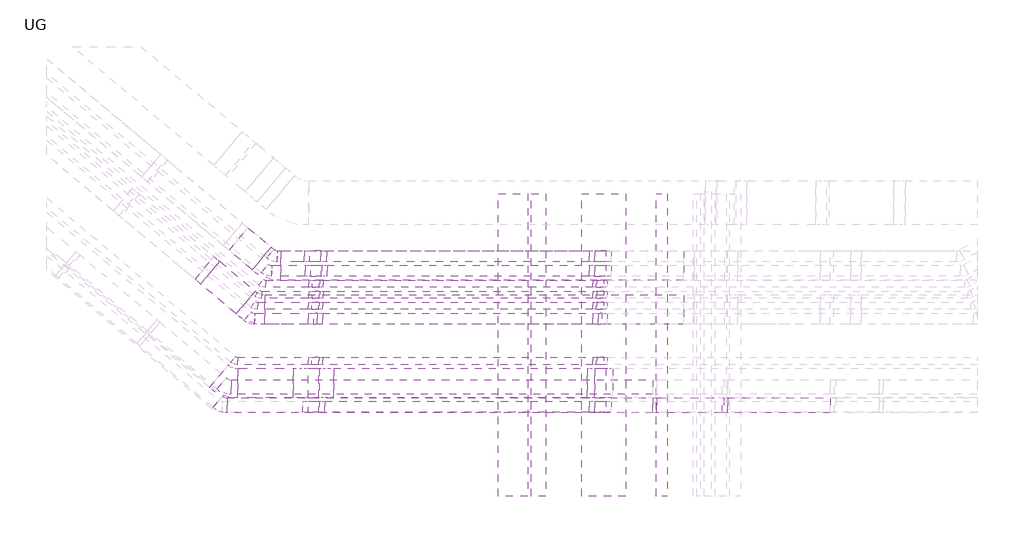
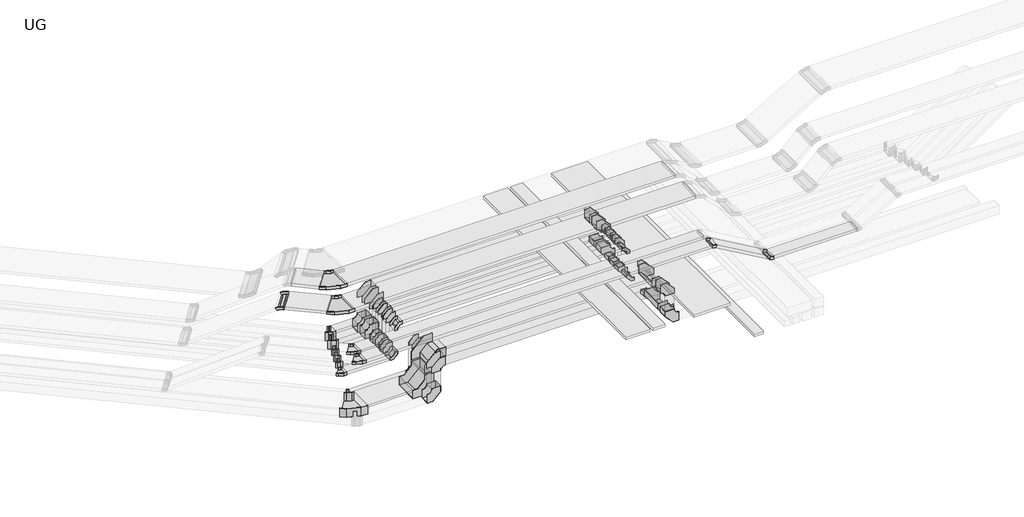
# One storey, part 7 of 14: 51 cable carrier fittings, 49 cable carrier segments.
"""IFC4 building model written with IfcOpenShell, lengths in millimetres."""

from ifc_helpers import new_model, si_unit, frame, origin, place, context, project, spatial, polyline, outline, extrude, transform, mapped, element, save
from components import cable_tray_horizontal_bend_6ea1dc5c, cable_tray_horizontal_bend_203efda3, cable_tray_horizontal_bend_376117d4, cable_tray_horizontal_bend_eb570cdd, cable_tray_horizontal_bend_2ef30f2e, cable_tray_horizontal_bend_5fd04952, cable_tray_vertical_inside_bend_de01723b, cable_tray_vertical_inside_bend_649f0518, cable_tray_vertical_inside_bend_28401fa2, cable_tray_vertical_inside_bend_dbbfe391, cable_tray_vertical_inside_bend_e31a4bf9, cable_tray_vertical_inside_bend_1c1c6de5, cable_tray_vertical_inside_bend_d6d3fe29, cable_tray_vertical_inside_bend_12245cc8, cable_tray_vertical_inside_bend_06119d48, cable_tray_vertical_inside_bend_abb6d1f4, cable_tray_vertical_inside_bend_db0dc6e9, cable_tray_vertical_inside_bend_ac1c3109, cable_tray_vertical_inside_bend_47f2189d, cable_tray_vertical_inside_bend_4fdccae9, cable_tray_vertical_inside_bend_7e400045, cable_tray_vertical_outside_bend_b526f006, cable_tray_vertical_outside_bend_dc64f624, cable_tray_vertical_outside_bend_665fa45d, cable_tray_vertical_outside_bend_2898f529, cable_tray_vertical_outside_bend_1a225cb0, cable_tray_vertical_outside_bend_da921238, cable_tray_vertical_outside_bend_ed6eee40, cable_tray_vertical_outside_bend_6acd1b9b, cable_tray_vertical_outside_bend_b24c8fc5, cable_tray_vertical_outside_bend_f7a50404, cable_tray_vertical_outside_bend_b7c47c18, cable_tray_vertical_outside_bend_d7308f68, cable_tray_vertical_outside_bend_21d388a0, cable_tray_vertical_outside_bend_bb4ee29d, cable_tray_vertical_outside_bend_37910013, cable_tray_vertical_outside_bend_9d80a6f1, cable_tray_vertical_outside_bend_c48c2dc3

model = new_model("IFC4")

# Units and contexts
model_context = context("Model", 3, world=origin())
ifc_project = project(units=[si_unit("LENGTHUNIT", "METRE", prefix="MILLI")], contexts=[model_context])

# Site, building, storey
site = spatial("IfcSite", under=ifc_project)
building = spatial("IfcBuilding", under=site)
storey = spatial("IfcBuildingStorey", under=building, Name="UG", Elevation=7925.0)

# Cable carrier fittings
placement = place(None, origin())
cable_tray_horizontal_bend_shape = cable_tray_horizontal_bend_6ea1dc5c(model_context)
element("IfcCableCarrierFitting", 1, ObjectType="Cable Tray Horizontal Bend : ELEC_ELV_TKG_N2402", at=placement, inside=storey, context=model_context, shape_type="MappedRepresentation", body=[
    mapped(cable_tray_horizontal_bend_shape, transform((132956.1137374, 23449.9736983, 12625.0), x_axis=(0.7660444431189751, -0.6427876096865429, 0.0), y_axis=(0.6427876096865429, 0.7660444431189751, 0.0), z_axis=(0.0, 0.0, 1.0))),
])
element("IfcCableCarrierFitting", 2, ObjectType="Cable Tray Horizontal Bend : ELEC_ELV_TKG_N2402", at=placement, inside=storey, context=model_context, shape_type="MappedRepresentation", body=[
    mapped(cable_tray_horizontal_bend_shape, transform((132901.5182023, 23299.9736983, 12625.0), x_axis=(0.7660444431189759, -0.642787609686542, 0.0), y_axis=(0.642787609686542, 0.7660444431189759, 0.0), z_axis=(0.0, 0.0, 1.0))),
])
element("IfcCableCarrierFitting", 3, ObjectType="Cable Tray Horizontal Bend : ELEC_ELV_TKG_N2402", at=placement, inside=storey, context=model_context, shape_type="MappedRepresentation", body=[
    mapped(cable_tray_horizontal_bend_shape, transform((132846.9226672, 23149.9736983, 12625.0), x_axis=(0.7660444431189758, -0.642787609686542, 0.0), y_axis=(0.642787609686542, 0.7660444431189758, 0.0), z_axis=(0.0, 0.0, 1.0))),
])
element("IfcCableCarrierFitting", 4, ObjectType="Cable Tray Horizontal Bend : ELEC_ELV_TKG_N2402", at=placement, inside=storey, context=model_context, shape_type="MappedRepresentation", body=[
    mapped(cable_tray_horizontal_bend_shape, transform((132573.6504557, 22399.7833112, 12624.996187), x_axis=(0.766044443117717, -0.6427876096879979, -2.3859743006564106e-07), y_axis=(0.642787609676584, 0.7660444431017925, 6.255244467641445e-06), z_axis=(-3.838017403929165e-06, -4.94516273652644e-06, 0.9999999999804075))),
])
cable_tray_horizontal_bend_2_shape = cable_tray_horizontal_bend_203efda3(model_context)
element("IfcCableCarrierFitting", 5, ObjectType="Cable Tray Horizontal Bend : ELEC_ELV_TKG_N2402", at=placement, inside=storey, context=model_context, shape_type="MappedRepresentation", body=[
    mapped(cable_tray_horizontal_bend_2_shape, transform((133092.6025753, 23824.9736983, 12650.0), x_axis=(0.7660444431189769, -0.6427876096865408, 0.0), y_axis=(0.6427876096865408, 0.7660444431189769, 0.0), z_axis=(0.0, 0.0, 1.0))),
])
element("IfcCableCarrierFitting", 6, ObjectType="Cable Tray Horizontal Bend : ELEC_ELV_TKG_N2402", at=placement, inside=storey, context=model_context, shape_type="MappedRepresentation", body=[
    mapped(cable_tray_horizontal_bend_2_shape, transform((133019.8085284, 23624.9736983, 12650.0), x_axis=(0.7660444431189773, -0.6427876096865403, 0.0), y_axis=(0.6427876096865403, 0.7660444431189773, 0.0), z_axis=(0.0, 0.0, 1.0))),
])
cable_tray_horizontal_bend_3_shape = cable_tray_horizontal_bend_376117d4(model_context)
element("IfcCableCarrierFitting", 7, ObjectType="Cable Tray Horizontal Bend : ELEC_ELV_TKG_N2402", at=placement, inside=storey, context=model_context, shape_type="MappedRepresentation", body=[
    mapped(cable_tray_horizontal_bend_3_shape, transform((132464.7539205, 22099.9736956, 12649.9999959), x_axis=(0.7660444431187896, -0.642787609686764, 0.0), y_axis=(0.642787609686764, 0.7660444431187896, 0.0), z_axis=(0.0, 0.0, 1.0))),
])
cable_tray_horizontal_bend_4_shape = cable_tray_horizontal_bend_eb570cdd(model_context)
element("IfcCableCarrierFitting", 8, ObjectType="Cable Tray Horizontal Bend : ELEC_ELV_CT_N2402", at=placement, inside=storey, context=model_context, shape_type="MappedRepresentation", body=[
    mapped(cable_tray_horizontal_bend_4_shape, transform((132783.6497954, 22974.619666, 12600.0), x_axis=(0.7660444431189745, -0.6427876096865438, 0.0), y_axis=(0.6427876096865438, 0.7660444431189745, 0.0), z_axis=(0.0, 0.0, 1.0))),
])
cable_tray_horizontal_bend_5_shape = cable_tray_horizontal_bend_2ef30f2e(model_context)
element("IfcCableCarrierFitting", 9, ObjectType="Cable Tray Horizontal Bend : ELEC_SUB_CT_N2402", at=placement, inside=storey, context=model_context, shape_type="MappedRepresentation", body=[
    mapped(cable_tray_horizontal_bend_5_shape, transform((133047.1062988, 23699.9737061, 13674.9999995), x_axis=(0.7660444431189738, -0.6427876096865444, 0.0), y_axis=(0.6427876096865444, 0.7660444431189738, 0.0), z_axis=(0.0, 0.0, 1.0))),
])
element("IfcCableCarrierFitting", 10, ObjectType="Cable Tray Horizontal Bend : ELEC_SUB_CT_N2402", at=placement, inside=storey, context=model_context, shape_type="MappedRepresentation", body=[
    mapped(cable_tray_horizontal_bend_5_shape, transform((132828.7241551, 23099.9736973, 13674.9999995), x_axis=(0.7660444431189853, -0.6427876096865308, 0.0), y_axis=(0.6427876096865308, 0.7660444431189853, 0.0), z_axis=(0.0, 0.0, 1.0))),
])
cable_tray_horizontal_bend_6_shape = cable_tray_horizontal_bend_5fd04952(model_context)
element("IfcCableCarrierFitting", 11, ObjectType="Cable Tray Horizontal Bend : ELEC_SUB_CT_N2402", at=placement, inside=storey, context=model_context, shape_type="MappedRepresentation", body=[
    mapped(cable_tray_horizontal_bend_6_shape, transform((132393.8039636, 21797.4337006, 13672.4599954), x_axis=(0.7660444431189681, -0.6427876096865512, 0.0), y_axis=(0.6427876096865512, 0.7660444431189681, 0.0), z_axis=(0.0, 0.0, 1.0))),
])
element("IfcCableCarrierFitting", 12, ObjectType="Cable Tray Horizontal Bend : ELEC_SUB_CT_N2402", at=placement, inside=storey, context=model_context, shape_type="MappedRepresentation", body=[
    mapped(cable_tray_horizontal_bend_6_shape, transform((132445.8317512, 22047.4337006, 13672.4599954), x_axis=(0.7660444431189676, -0.6427876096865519, 0.0), y_axis=(0.6427876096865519, 0.7660444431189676, 0.0), z_axis=(0.0, 0.0, 1.0))),
])
cable_tray_vertical_inside_bend_shape = cable_tray_vertical_inside_bend_de01723b(model_context)
element("IfcCableCarrierFitting", 13, ObjectType="Cable Tray Vertical Inside Bend : ELEC_SUB_CT_N2402", at=placement, inside=storey, context=model_context, shape_type="MappedRepresentation", body=[
    mapped(cable_tray_vertical_inside_bend_shape, transform((139235.0, 21797.4337006, 13125.0), x_axis=(-1.0, 0.0, 0.0), y_axis=(0.0, 0.0, 1.0), z_axis=(0.0, 1.0, 0.0))),
])
cable_tray_vertical_inside_bend_2_shape = cable_tray_vertical_inside_bend_649f0518(model_context)
element("IfcCableCarrierFitting", 14, ObjectType="Cable Tray Vertical Inside Bend : ELEC_ELV_TKG_N2402", at=placement, inside=storey, context=model_context, shape_type="MappedRepresentation", body=[
    mapped(cable_tray_vertical_inside_bend_2_shape, transform((133672.1243461, 23299.9736983, 12625.0), x_axis=(0.0, 0.0, -1.0), y_axis=(-1.0, 0.0, 0.0), z_axis=(0.0, 1.0, 0.0))),
])
element("IfcCableCarrierFitting", 15, ObjectType="Cable Tray Vertical Inside Bend : ELEC_ELV_TKG_N2402", at=placement, inside=storey, context=model_context, shape_type="MappedRepresentation", body=[
    mapped(cable_tray_vertical_inside_bend_2_shape, transform((133672.1243149, 23449.9736983, 12625.0), x_axis=(0.0, 0.0, -1.0), y_axis=(-1.0, 0.0, 0.0), z_axis=(0.0, 1.0, 0.0))),
])
element("IfcCableCarrierFitting", 16, ObjectType="Cable Tray Vertical Inside Bend : ELEC_ELV_TKG_N2402", at=placement, inside=storey, context=model_context, shape_type="MappedRepresentation", body=[
    mapped(cable_tray_vertical_inside_bend_2_shape, transform((133666.0591293, 23149.9736983, 12625.0), x_axis=(0.0, 0.0, -1.0), y_axis=(-1.0, 0.0, 0.0), z_axis=(0.0, 1.0, 0.0))),
])
cable_tray_vertical_inside_bend_3_shape = cable_tray_vertical_inside_bend_28401fa2(model_context)
element("IfcCableCarrierFitting", 17, ObjectType="Cable Tray Vertical Inside Bend : ELEC_ELV_TKG_N2402", at=placement, inside=storey, context=model_context, shape_type="MappedRepresentation", body=[
    mapped(cable_tray_vertical_inside_bend_3_shape, transform((133675.1581551, 23624.9736983, 12650.0), x_axis=(0.0, 0.0, -1.0), y_axis=(-1.0, 0.0, 0.0), z_axis=(0.0, 1.0, 0.0))),
])
element("IfcCableCarrierFitting", 18, ObjectType="Cable Tray Vertical Inside Bend : ELEC_ELV_TKG_N2402", at=placement, inside=storey, context=model_context, shape_type="MappedRepresentation", body=[
    mapped(cable_tray_vertical_inside_bend_3_shape, transform((133666.0591293, 23824.9736983, 12650.0), x_axis=(0.0, 0.0, -1.0), y_axis=(-1.0, 0.0, 0.0), z_axis=(0.0, 1.0, 0.0))),
])
cable_tray_vertical_inside_bend_4_shape = cable_tray_vertical_inside_bend_dbbfe391(model_context)
element("IfcCableCarrierFitting", 19, ObjectType="Cable Tray Vertical Inside Bend : ELEC_ELV_TKG_N2402", at=placement, inside=storey, context=model_context, shape_type="MappedRepresentation", body=[
    mapped(cable_tray_vertical_inside_bend_4_shape, transform((133641.0591293, 22099.9736956, 12649.9999959), x_axis=(0.0, 0.0, -1.0), y_axis=(-1.0, 0.0, 0.0), z_axis=(0.0, 1.0, 0.0))),
])
cable_tray_vertical_inside_bend_5_shape = cable_tray_vertical_inside_bend_e31a4bf9(model_context)
element("IfcCableCarrierFitting", 20, ObjectType="Cable Tray Vertical Inside Bend : ELEC_ELV_CT_N2402", at=placement, inside=storey, context=model_context, shape_type="MappedRepresentation", body=[
    mapped(cable_tray_vertical_inside_bend_5_shape, transform((133666.0591293, 22974.619666, 12600.0), x_axis=(0.0, 0.0, -1.0), y_axis=(-1.0, 0.0, 0.0), z_axis=(0.0, 1.0, 0.0))),
])
element("IfcCableCarrierFitting", 21, ObjectType="Cable Tray Vertical Inside Bend : ELEC_ELV_CT_N2402", at=placement, inside=storey, context=model_context, shape_type="MappedRepresentation", body=[
    mapped(cable_tray_vertical_inside_bend_5_shape, transform((137535.8122751, 22974.619666, 12599.9852732), x_axis=(0.0, 0.0, -1.0), y_axis=(1.0, 0.0, 0.0), z_axis=(0.0, -1.0, 0.0))),
])
cable_tray_vertical_inside_bend_6_shape = cable_tray_vertical_inside_bend_1c1c6de5(model_context)
element("IfcCableCarrierFitting", 22, ObjectType="Cable Tray Vertical Inside Bend : ELEC_ELV_TKG_N2402", at=placement, inside=storey, context=model_context, shape_type="MappedRepresentation", body=[
    mapped(cable_tray_vertical_inside_bend_6_shape, transform((133666.0591293, 22399.7833112, 12625.0003797), x_axis=(0.0, 0.0, -1.0), y_axis=(-1.0, 0.0, 0.0), z_axis=(0.0, 1.0, 0.0))),
])
cable_tray_vertical_inside_bend_7_shape = cable_tray_vertical_inside_bend_d6d3fe29(model_context)
element("IfcCableCarrierFitting", 23, ObjectType="Cable Tray Vertical Inside Bend : ELEC_ELV_TKG_N2402", at=placement, inside=storey, context=model_context, shape_type="MappedRepresentation", body=[
    mapped(cable_tray_vertical_inside_bend_7_shape, transform((133641.0591293, 21774.9736958, 12650.0050793), x_axis=(0.0, 0.0, -1.0), y_axis=(-1.0, 0.0, 0.0), z_axis=(0.0, 1.0, 0.0))),
])
cable_tray_vertical_inside_bend_8_shape = cable_tray_vertical_inside_bend_12245cc8(model_context)
element("IfcCableCarrierFitting", 24, ObjectType="Cable Tray Vertical Inside Bend : ELEC_ELV_TKG_N2402", at=placement, inside=storey, context=model_context, shape_type="MappedRepresentation", body=[
    mapped(cable_tray_vertical_inside_bend_8_shape, transform((137535.8122751, 22099.9736957, 12650.0), x_axis=(0.0, 0.0, -1.0), y_axis=(1.0, 0.0, 0.0), z_axis=(0.0, -1.0, 0.0))),
])
cable_tray_vertical_inside_bend_9_shape = cable_tray_vertical_inside_bend_06119d48(model_context)
element("IfcCableCarrierFitting", 25, ObjectType="Cable Tray Vertical Inside Bend : ELEC_ELV_TKG_N2402", at=placement, inside=storey, context=model_context, shape_type="MappedRepresentation", body=[
    mapped(cable_tray_vertical_inside_bend_9_shape, transform((137535.8122751, 21774.9736958, 12649.9657412), x_axis=(0.0, 0.0, -1.0), y_axis=(1.0, 0.0, 0.0), z_axis=(0.0, -1.0, 0.0))),
])
cable_tray_vertical_inside_bend_10_shape = cable_tray_vertical_inside_bend_abb6d1f4(model_context)
element("IfcCableCarrierFitting", 26, ObjectType="Cable Tray Vertical Inside Bend : ELEC_ELV_TKG_N2402", at=placement, inside=storey, context=model_context, shape_type="MappedRepresentation", body=[
    mapped(cable_tray_vertical_inside_bend_10_shape, transform((137535.8123493, 22399.7833112, 12625.428418), x_axis=(0.0, 0.0, -1.0), y_axis=(1.0, 0.0, 0.0), z_axis=(0.0, -1.0, 0.0))),
])
cable_tray_vertical_inside_bend_11_shape = cable_tray_vertical_inside_bend_db0dc6e9(model_context)
element("IfcCableCarrierFitting", 27, ObjectType="Cable Tray Vertical Inside Bend : ELEC_ELV_TKG_N2402", at=placement, inside=storey, context=model_context, shape_type="MappedRepresentation", body=[
    mapped(cable_tray_vertical_inside_bend_11_shape, transform((137535.8122751, 23149.9736983, 12624.9507728), x_axis=(0.0, 0.0, -1.0), y_axis=(1.0, 0.0, 0.0), z_axis=(0.0, -1.0, 0.0))),
])
cable_tray_vertical_inside_bend_12_shape = cable_tray_vertical_inside_bend_ac1c3109(model_context)
element("IfcCableCarrierFitting", 28, ObjectType="Cable Tray Vertical Inside Bend : ELEC_ELV_TKG_N2402", at=placement, inside=storey, context=model_context, shape_type="MappedRepresentation", body=[
    mapped(cable_tray_vertical_inside_bend_12_shape, transform((137535.8122751, 23299.9736983, 12624.948881), x_axis=(0.0, 0.0, -1.0), y_axis=(1.0, 0.0, 0.0), z_axis=(0.0, -1.0, 0.0))),
])
cable_tray_vertical_inside_bend_13_shape = cable_tray_vertical_inside_bend_47f2189d(model_context)
element("IfcCableCarrierFitting", 29, ObjectType="Cable Tray Vertical Inside Bend : ELEC_ELV_TKG_N2402", at=placement, inside=storey, context=model_context, shape_type="MappedRepresentation", body=[
    mapped(cable_tray_vertical_inside_bend_13_shape, transform((137535.8122751, 23449.9736983, 12624.9465865), x_axis=(0.0, 0.0, -1.0), y_axis=(1.0, 0.0, 0.0), z_axis=(0.0, -1.0, 0.0))),
])
cable_tray_vertical_inside_bend_14_shape = cable_tray_vertical_inside_bend_4fdccae9(model_context)
element("IfcCableCarrierFitting", 30, ObjectType="Cable Tray Vertical Inside Bend : ELEC_ELV_TKG_N2402", at=placement, inside=storey, context=model_context, shape_type="MappedRepresentation", body=[
    mapped(cable_tray_vertical_inside_bend_14_shape, transform((137535.8122751, 23624.9736983, 12649.9448143), x_axis=(0.0, 0.0, -1.0), y_axis=(1.0, 0.0, 0.0), z_axis=(0.0, -1.0, 0.0))),
])
cable_tray_vertical_inside_bend_15_shape = cable_tray_vertical_inside_bend_7e400045(model_context)
element("IfcCableCarrierFitting", 31, ObjectType="Cable Tray Vertical Inside Bend : ELEC_ELV_TKG_N2402", at=placement, inside=storey, context=model_context, shape_type="MappedRepresentation", body=[
    mapped(cable_tray_vertical_inside_bend_15_shape, transform((137535.8122751, 23824.9736983, 12649.9417846), x_axis=(0.0, 0.0, -1.0), y_axis=(1.0, 0.0, 0.0), z_axis=(0.0, -1.0, 0.0))),
])
cable_tray_vertical_outside_bend_shape = cable_tray_vertical_outside_bend_b526f006(model_context)
element("IfcCableCarrierFitting", 32, ObjectType="Cable Tray Vertical Outside Bend : ELEC_ELV_TKG_N2402", at=placement, inside=storey, context=model_context, shape_type="MappedRepresentation", body=[
    mapped(cable_tray_vertical_outside_bend_shape, transform((133675.1581551, 23624.9736983, 13225.0000128), x_axis=(-1.0, 0.0, 0.0), y_axis=(0.0, 0.0, -1.0), z_axis=(0.0, -1.0, 0.0))),
])
element("IfcCableCarrierFitting", 33, ObjectType="Cable Tray Vertical Outside Bend : ELEC_ELV_TKG_N2402", at=placement, inside=storey, context=model_context, shape_type="MappedRepresentation", body=[
    mapped(cable_tray_vertical_outside_bend_shape, transform((133666.0591293, 23824.9736983, 13225.0000128), x_axis=(-1.0, 0.0, 0.0), y_axis=(0.0, 0.0, -1.0), z_axis=(0.0, -1.0, 0.0))),
])
element("IfcCableCarrierFitting", 34, ObjectType="Cable Tray Vertical Outside Bend : ELEC_ELV_TKG_N2402", at=placement, inside=storey, context=model_context, shape_type="MappedRepresentation", body=[
    mapped(cable_tray_vertical_outside_bend_shape, transform((137535.8122751, 23624.9736983, 13225.0000128), x_axis=(1.0, 0.0, 0.0), y_axis=(0.0, 0.0, -1.0), z_axis=(0.0, 1.0, 0.0))),
])
element("IfcCableCarrierFitting", 35, ObjectType="Cable Tray Vertical Outside Bend : ELEC_ELV_TKG_N2402", at=placement, inside=storey, context=model_context, shape_type="MappedRepresentation", body=[
    mapped(cable_tray_vertical_outside_bend_shape, transform((137535.8122751, 23824.9736983, 13225.0000128), x_axis=(1.0, 0.0, 0.0), y_axis=(0.0, 0.0, -1.0), z_axis=(0.0, 1.0, 0.0))),
])
cable_tray_vertical_outside_bend_2_shape = cable_tray_vertical_outside_bend_dc64f624(model_context)
element("IfcCableCarrierFitting", 36, ObjectType="Cable Tray Vertical Outside Bend : ELEC_SUB_CT_N2402", at=placement, inside=storey, context=model_context, shape_type="MappedRepresentation", body=[
    mapped(cable_tray_vertical_outside_bend_2_shape, transform((132187.6283978, 23637.9169108, 13674.9999995), x_axis=(0.6634139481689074, -0.5566703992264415, 0.5000000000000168), y_axis=(0.38302222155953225, -0.3213938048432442, -0.8660254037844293), z_axis=(0.6427876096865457, 0.7660444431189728, 0.0))),
])
cable_tray_vertical_outside_bend_3_shape = cable_tray_vertical_outside_bend_665fa45d(model_context)
element("IfcCableCarrierFitting", 37, ObjectType="Cable Tray Vertical Outside Bend : ELEC_SUB_CT_N2402", at=placement, inside=storey, context=model_context, shape_type="MappedRepresentation", body=[
    mapped(cable_tray_vertical_outside_bend_3_shape, transform((138286.7714729, 21797.4337006, 13672.4599954), x_axis=(-0.8660254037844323, 0.0, 0.5000000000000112), y_axis=(-0.5000000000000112, 0.0, -0.8660254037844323), z_axis=(0.0, -1.0, 0.0))),
])
cable_tray_vertical_outside_bend_4_shape = cable_tray_vertical_outside_bend_2898f529(model_context)
element("IfcCableCarrierFitting", 38, ObjectType="Cable Tray Vertical Outside Bend : ELEC_ELV_TKG_N2402", at=placement, inside=storey, context=model_context, shape_type="MappedRepresentation", body=[
    mapped(cable_tray_vertical_outside_bend_4_shape, transform((133641.0591293, 21774.9736958, 13225.0316513), x_axis=(-0.9999999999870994, 0.0, 5.079486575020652e-06), y_axis=(-5.079486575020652e-06, 0.0, -0.9999999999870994), z_axis=(0.0, -1.0, 0.0))),
])
cable_tray_vertical_outside_bend_5_shape = cable_tray_vertical_outside_bend_1a225cb0(model_context)
element("IfcCableCarrierFitting", 39, ObjectType="Cable Tray Vertical Outside Bend : ELEC_ELV_TKG_N2402", at=placement, inside=storey, context=model_context, shape_type="MappedRepresentation", body=[
    mapped(cable_tray_vertical_outside_bend_5_shape, transform((133641.0591293, 22099.9736956, 13225.1330434), x_axis=(-0.9999999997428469, 0.0, 2.2678322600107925e-05), y_axis=(-2.2678322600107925e-05, 0.0, -0.9999999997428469), z_axis=(0.0, -1.0, 0.0))),
])
cable_tray_vertical_outside_bend_6_shape = cable_tray_vertical_outside_bend_da921238(model_context)
element("IfcCableCarrierFitting", 40, ObjectType="Cable Tray Vertical Outside Bend : ELEC_ELV_TKG_N2402", at=placement, inside=storey, context=model_context, shape_type="MappedRepresentation", body=[
    mapped(cable_tray_vertical_outside_bend_6_shape, transform((133666.0591293, 22399.7833112, 13200.0167314), x_axis=(-0.9999999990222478, 0.0, 4.422108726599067e-05), y_axis=(-4.422108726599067e-05, 0.0, -0.9999999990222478), z_axis=(0.0, -1.0, 0.0))),
])
cable_tray_vertical_outside_bend_7_shape = cable_tray_vertical_outside_bend_ed6eee40(model_context)
element("IfcCableCarrierFitting", 41, ObjectType="Cable Tray Vertical Outside Bend : ELEC_ELV_CT_N2402", at=placement, inside=storey, context=model_context, shape_type="MappedRepresentation", body=[
    mapped(cable_tray_vertical_outside_bend_7_shape, transform((133666.0591293, 22974.619666, 13175.0798258), x_axis=(-0.9999999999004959, 0.0, 1.41070315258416e-05), y_axis=(-1.41070315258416e-05, 0.0, -0.9999999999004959), z_axis=(0.0, -1.0, 0.0))),
])
cable_tray_vertical_outside_bend_8_shape = cable_tray_vertical_outside_bend_6acd1b9b(model_context)
element("IfcCableCarrierFitting", 42, ObjectType="Cable Tray Vertical Outside Bend : ELEC_ELV_TKG_N2402", at=placement, inside=storey, context=model_context, shape_type="MappedRepresentation", body=[
    mapped(cable_tray_vertical_outside_bend_8_shape, transform((133666.0591293, 23149.9736983, 13200.0800684), x_axis=(-0.9999999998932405, 0.0, 1.4612293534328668e-05), y_axis=(-1.4612293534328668e-05, 0.0, -0.9999999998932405), z_axis=(0.0, -1.0, 0.0))),
])
cable_tray_vertical_outside_bend_9_shape = cable_tray_vertical_outside_bend_b24c8fc5(model_context)
element("IfcCableCarrierFitting", 43, ObjectType="Cable Tray Vertical Outside Bend : ELEC_ELV_TKG_N2402", at=placement, inside=storey, context=model_context, shape_type="MappedRepresentation", body=[
    mapped(cable_tray_vertical_outside_bend_9_shape, transform((133672.1243461, 23299.9736983, 13200.0800507), x_axis=(-0.9999999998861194, 0.0, 1.5091761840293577e-05), y_axis=(-1.5091761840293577e-05, 0.0, -0.9999999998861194), z_axis=(0.0, -1.0, 0.0))),
])
cable_tray_vertical_outside_bend_10_shape = cable_tray_vertical_outside_bend_f7a50404(model_context)
element("IfcCableCarrierFitting", 44, ObjectType="Cable Tray Vertical Outside Bend : ELEC_ELV_TKG_N2402", at=placement, inside=storey, context=model_context, shape_type="MappedRepresentation", body=[
    mapped(cable_tray_vertical_outside_bend_10_shape, transform((133672.1243149, 23449.9736983, 13200.0800291), x_axis=(-0.9999999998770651, 0.0, 1.568023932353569e-05), y_axis=(-1.568023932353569e-05, 0.0, -0.9999999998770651), z_axis=(0.0, -1.0, 0.0))),
])
cable_tray_vertical_outside_bend_11_shape = cable_tray_vertical_outside_bend_b7c47c18(model_context)
element("IfcCableCarrierFitting", 45, ObjectType="Cable Tray Vertical Outside Bend : ELEC_ELV_TKG_N2402", at=placement, inside=storey, context=model_context, shape_type="MappedRepresentation", body=[
    mapped(cable_tray_vertical_outside_bend_11_shape, transform((137535.8122751, 21774.9736958, 13225.0146514), x_axis=(0.9999999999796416, 0.0, -6.3809810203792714e-06), y_axis=(-6.3809810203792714e-06, 0.0, -0.9999999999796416), z_axis=(0.0, 1.0, 0.0))),
])
cable_tray_vertical_outside_bend_12_shape = cable_tray_vertical_outside_bend_d7308f68(model_context)
element("IfcCableCarrierFitting", 46, ObjectType="Cable Tray Vertical Outside Bend : ELEC_ELV_TKG_N2402", at=placement, inside=storey, context=model_context, shape_type="MappedRepresentation", body=[
    mapped(cable_tray_vertical_outside_bend_12_shape, transform((137535.8122751, 22099.9736957, 13225.0595281), x_axis=(0.9999999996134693, 0.0, -2.7803983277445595e-05), y_axis=(-2.7803983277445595e-05, 0.0, -0.9999999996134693), z_axis=(0.0, 1.0, 0.0))),
])
cable_tray_vertical_outside_bend_13_shape = cable_tray_vertical_outside_bend_21d388a0(model_context)
element("IfcCableCarrierFitting", 47, ObjectType="Cable Tray Vertical Outside Bend : ELEC_ELV_TKG_N2402", at=placement, inside=storey, context=model_context, shape_type="MappedRepresentation", body=[
    mapped(cable_tray_vertical_outside_bend_13_shape, transform((137535.8122751, 22399.7833112, 13199.898672), x_axis=(0.9999999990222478, 0.0, -4.422108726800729e-05), y_axis=(-4.422108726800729e-05, 0.0, -0.9999999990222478), z_axis=(0.0, 1.0, 0.0))),
])
cable_tray_vertical_outside_bend_14_shape = cable_tray_vertical_outside_bend_bb4ee29d(model_context)
element("IfcCableCarrierFitting", 48, ObjectType="Cable Tray Vertical Outside Bend : ELEC_ELV_CT_N2402", at=placement, inside=storey, context=model_context, shape_type="MappedRepresentation", body=[
    mapped(cable_tray_vertical_outside_bend_14_shape, transform((137535.8122751, 22974.619666, 13175.0354087), x_axis=(0.9999999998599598, 0.0, -1.6735604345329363e-05), y_axis=(-1.6735604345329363e-05, 0.0, -0.9999999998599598), z_axis=(0.0, 1.0, 0.0))),
])
cable_tray_vertical_outside_bend_15_shape = cable_tray_vertical_outside_bend_37910013(model_context)
element("IfcCableCarrierFitting", 49, ObjectType="Cable Tray Vertical Outside Bend : ELEC_ELV_TKG_N2402", at=placement, inside=storey, context=model_context, shape_type="MappedRepresentation", body=[
    mapped(cable_tray_vertical_outside_bend_15_shape, transform((137535.8122751, 23149.9736983, 13200.0343921), x_axis=(0.9999999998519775, 0.0, -1.7205956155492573e-05), y_axis=(-1.7205956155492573e-05, 0.0, -0.9999999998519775), z_axis=(0.0, 1.0, 0.0))),
])
cable_tray_vertical_outside_bend_16_shape = cable_tray_vertical_outside_bend_9d80a6f1(model_context)
element("IfcCableCarrierFitting", 50, ObjectType="Cable Tray Vertical Outside Bend : ELEC_ELV_TKG_N2402", at=placement, inside=storey, context=model_context, shape_type="MappedRepresentation", body=[
    mapped(cable_tray_vertical_outside_bend_16_shape, transform((137535.8122751, 23299.9736983, 13200.033341), x_axis=(0.9999999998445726, 0.0, -1.7631080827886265e-05), y_axis=(-1.7631080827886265e-05, 0.0, -0.9999999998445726), z_axis=(0.0, 1.0, 0.0))),
])
cable_tray_vertical_outside_bend_17_shape = cable_tray_vertical_outside_bend_c48c2dc3(model_context)
element("IfcCableCarrierFitting", 51, ObjectType="Cable Tray Vertical Outside Bend : ELEC_ELV_TKG_N2402", at=placement, inside=storey, context=model_context, shape_type="MappedRepresentation", body=[
    mapped(cable_tray_vertical_outside_bend_17_shape, transform((137535.8122751, 23449.9736983, 13200.0319427), x_axis=(0.9999999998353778, 0.0, -1.8145092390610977e-05), y_axis=(-1.8145092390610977e-05, 0.0, -0.9999999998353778), z_axis=(0.0, 1.0, 0.0))),
])

# Cable carrier segments
element("IfcCableCarrierSegment", 52, ObjectType="ELEC_ELV_CT_N2402", at=placement, inside=storey, context=model_context, shape_type="SweptSolid", body=[
    extrude(outline(polyline([(138299.999995, 24675.0000095), (138449.999995, 24675.0000095), (138449.999995, 20563.0534549), (138299.999995, 20563.0534549), (138299.999995, 24675.0000095)])), frame((0.0, 0.0, 12748.000013), z_axis=(0.0, 0.0, 1.0), x_axis=(1.0, 0.0, 0.0)), (0.0, 0.0, 1.0), 50.0),
])
element("IfcCableCarrierSegment", 53, ObjectType="ELEC_SUB_CT_N2402", at=placement, inside=storey, context=model_context, shape_type="SweptSolid", body=[
    extrude(outline(polyline([(132518.6257981, 21947.4337006), (132518.6257981, 22147.4337006), (138253.2778238, 22147.4337006), (138253.2778238, 21947.4337006), (132518.6257981, 21947.4337006)])), frame((0.0, 0.0, 13647.4599954), z_axis=(0.0, 0.0, 1.0), x_axis=(1.0, 0.0, 0.0)), (0.0, 0.0, 1.0), 50.0),
])
element("IfcCableCarrierSegment", 54, ObjectType="ELEC_ELV_TKG_N2402", at=placement, inside=storey, context=model_context, shape_type="SweptSolid", body=[
    extrude(outline(polyline([(0.0, -100.0), (0.0, 0.0), (3669.7531471, 0.0), (3669.7531471, -100.0), (0.0, -100.0)])), frame((137435.8144862, 22349.7833112, 13149.903094), z_axis=(4.422108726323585e-05, 0.0, 0.9999999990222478), x_axis=(-0.9999999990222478, 0.0, 4.422108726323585e-05)), (0.0, 0.0, 1.0), 100.0),
])
element("IfcCableCarrierSegment", 55, ObjectType="ELEC_ELV_TKG_N2402", at=placement, inside=storey, context=model_context, shape_type="SweptSolid", body=[
    extrude(outline(polyline([(0.0, -150.0), (0.0, 0.0), (3594.753341, 0.0), (3594.753341, -150.0), (0.0, -150.0)])), frame((137385.8129134, 21699.9736958, 13150.0156086), z_axis=(4.250882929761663e-06, 0.0, 0.999999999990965), x_axis=(-0.999999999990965, 0.0, 4.250882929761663e-06)), (0.0, 0.0, 1.0), 149.9999999),
])
element("IfcCableCarrierSegment", 56, ObjectType="ELEC_ELV_CT_N2402", at=placement, inside=storey, context=model_context, shape_type="SweptSolid", body=[
    extrude(outline(polyline([(136549.9996932, 20563.0534549), (136149.9996932, 20563.0534549), (136149.9996932, 24675.0000095), (136549.9996932, 24675.0000095), (136549.9996932, 20563.0534549)])), frame((0.0, 0.0, 13448.000013), z_axis=(0.0, 0.0, 1.0), x_axis=(1.0, 0.0, 0.0)), (0.0, 0.0, 1.0), 50.0),
])
element("IfcCableCarrierSegment", 57, ObjectType="ELEC_ELV_CT_N2402", at=placement, inside=storey, context=model_context, shape_type="SweptSolid", body=[
    extrude(outline(polyline([(136549.9996932, 20563.0534549), (136149.9996932, 20563.0534549), (136149.9996932, 24675.0000095), (136549.9996932, 24675.0000095), (136549.9996932, 20563.0534549)])), frame((0.0, 0.0, 13448.000013), z_axis=(0.0, 0.0, 1.0), x_axis=(1.0, 0.0, 0.0)), (0.0, 0.0, 1.0), 50.0),
])
element("IfcCableCarrierSegment", 58, ObjectType="ELEC_ELV_CT_N2402", at=placement, inside=storey, context=model_context, shape_type="SweptSolid", body=[
    extrude(outline(polyline([(136799.9996932, 20563.0534549), (136599.9996932, 20563.0534549), (136599.9996932, 24675.0000095), (136799.9996932, 24675.0000095), (136799.9996932, 20563.0534549)])), frame((0.0, 0.0, 13448.000013), z_axis=(0.0, 0.0, 1.0), x_axis=(1.0, 0.0, 0.0)), (0.0, 0.0, 1.0), 50.0),
])
element("IfcCableCarrierSegment", 59, ObjectType="ELEC_ELV_CT_N2402", at=placement, inside=storey, context=model_context, shape_type="SweptSolid", body=[
    extrude(outline(polyline([(137884.6833266, 20563.0534549), (137284.6833266, 20563.0534549), (137284.6833266, 24675.0000095), (137884.6833266, 24675.0000095), (137884.6833266, 20563.0534549)])), frame((0.0, 0.0, 13448.000013), z_axis=(0.0, 0.0, 1.0), x_axis=(1.0, 0.0, 0.0)), (0.0, 0.0, 1.0), 50.0),
])
element("IfcCableCarrierSegment", 60, ObjectType="ELEC_ELV_CT_N2402", at=placement, inside=storey, context=model_context, shape_type="SweptSolid", body=[
    extrude(outline(polyline([(137884.6833256, 20563.0534549), (137284.6833256, 20563.0534549), (137284.6833256, 24675.0000095), (137884.6833256, 24675.0000095), (137884.6833256, 20563.0534549)])), frame((0.0, 0.0, 13448.000013), z_axis=(0.0, 0.0, 1.0), x_axis=(1.0, 0.0, 0.0)), (0.0, 0.0, 1.0), 50.0),
])
element("IfcCableCarrierSegment", 61, ObjectType="ELEC_ELV_TKG_N2402", at=placement, inside=storey, context=model_context, shape_type="SweptSolid", body=[
    extrude(outline(polyline([(0.0, -400.0), (0.0, 0.0), (3444.7517755, 0.0), (3444.7517755, -400.0), (0.0, -400.0)])), frame((133916.064007, 22299.9736956, 13150.1268067), z_axis=(1.8118298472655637e-05, 0.0, 0.9999999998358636), x_axis=(0.9999999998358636, 2.949634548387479e-11, -1.8118298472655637e-05)), (0.0, 0.0, 1.0), 150.0),
])
element("IfcCableCarrierSegment", 62, ObjectType="ELEC_ELV_CT_N2402", at=placement, inside=storey, context=model_context, shape_type="SweptSolid", body=[
    extrude(outline(polyline([(0.0, -150.0), (0.0, 0.0), (3669.7534089, 0.0), (3669.7534089, -150.0), (0.0, -150.0)])), frame((137435.8136671, 22899.619666, 13150.0370823), z_axis=(1.1263104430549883e-05, 0.0, 0.9999999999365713), x_axis=(-0.9999999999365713, -1.042218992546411e-12, 1.1263104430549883e-05)), (0.0, 0.0, 1.0), 50.0),
])
element("IfcCableCarrierSegment", 63, ObjectType="ELEC_ELV_TKG_N2402", at=placement, inside=storey, context=model_context, shape_type="SweptSolid", body=[
    extrude(outline(polyline([(0.0, -100.0), (0.0, 0.0), (3669.7534053, 0.0), (3669.7534053, -100.0), (0.0, -100.0)])), frame((137435.8134167, 23099.9736983, 13150.0361127), z_axis=(1.1579652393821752e-05, 0.0, 0.9999999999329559), x_axis=(-0.9999999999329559, 0.0, 1.1579652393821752e-05)), (0.0, 0.0, 1.0), 100.0),
])
element("IfcCableCarrierSegment", 64, ObjectType="ELEC_ELV_TKG_N2402", at=placement, inside=storey, context=model_context, shape_type="SweptSolid", body=[
    extrude(outline(polyline([(0.0, -100.0), (0.0, 0.0), (3663.6881832, 0.0), (3663.6881832, -100.0), (0.0, -100.0)])), frame((137435.8134454, 23249.9736983, 13150.035104), z_axis=(1.1856217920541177e-05, 0.0, 0.9999999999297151), x_axis=(-0.9999999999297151, 0.0, 1.1856217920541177e-05)), (0.0, 0.0, 1.0), 100.0),
])
element("IfcCableCarrierSegment", 65, ObjectType="ELEC_ELV_TKG_N2402", at=placement, inside=storey, context=model_context, shape_type="SweptSolid", body=[
    extrude(outline(polyline([(0.0, -100.0), (0.0, 0.0), (3663.6882069, 0.0), (3663.6882069, -100.0), (0.0, -100.0)])), frame((137435.8134795, 23399.9736983, 13150.0337572), z_axis=(1.2201870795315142e-05, 0.0, 0.9999999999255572), x_axis=(-0.9999999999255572, 0.0, 1.2201870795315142e-05)), (0.0, 0.0, 1.0), 100.0),
])
element("IfcCableCarrierSegment", 66, ObjectType="ELEC_SUB_CT_N2402", at=placement, inside=storey, context=model_context, shape_type="SweptSolid", body=[
    extrude(outline(polyline([(138253.2778238, 21897.4337006), (138253.2778238, 21697.4337006), (132466.5980104, 21697.4337006), (132466.5980104, 21897.4337006), (138253.2778238, 21897.4337006)])), frame((0.0, 0.0, 13647.4599954), z_axis=(0.0, 0.0, 1.0), x_axis=(1.0, 0.0, 0.0)), (0.0, 0.0, 1.0), 50.0),
])
element("IfcCableCarrierSegment", 67, ObjectType="ELEC_ELV_TKG_N2402", at=placement, inside=storey, context=model_context, shape_type="SweptSolid", body=[
    extrude(outline(polyline([(133825.1581551, 23549.9736983), (133825.1581551, 23699.9736983), (137385.8122751, 23699.9736983), (137385.8122751, 23549.9736983), (133825.1581551, 23549.9736983)])), frame((0.0, 0.0, 13150.0000128), z_axis=(0.0, 0.0, 1.0), x_axis=(1.0, 0.0, 0.0)), (0.0, 0.0, 1.0), 150.0),
])
element("IfcCableCarrierSegment", 68, ObjectType="ELEC_ELV_TKG_N2402", at=placement, inside=storey, context=model_context, shape_type="SweptSolid", body=[
    extrude(outline(polyline([(133816.0591293, 23749.9736983), (133816.0591293, 23899.9736983), (137385.8122751, 23899.9736983), (137385.8122751, 23749.9736983), (133816.0591293, 23749.9736983)])), frame((0.0, 0.0, 13150.0000128), z_axis=(0.0, 0.0, 1.0), x_axis=(1.0, 0.0, 0.0)), (0.0, 0.0, 1.0), 150.0),
])
element("IfcCableCarrierSegment", 69, ObjectType="ELEC_ELV_TKG_N2402", at=placement, inside=storey, context=model_context, shape_type="SweptSolid", body=[
    extrude(outline(polyline([(133716.0591293, 21849.9736958), (133716.0591293, 21699.9736958), (133566.0591293, 21699.9736958), (133566.0591293, 21849.9736958), (133716.0591293, 21849.9736958)])), frame((0.0, 0.0, 12799.999996), z_axis=(0.0, 0.0, 1.0), x_axis=(1.0, 0.0, 0.0)), (0.0, 0.0, 1.0), 275.0308934),
])
element("IfcCableCarrierSegment", 70, ObjectType="ELEC_ELV_TKG_N2402", at=placement, inside=storey, context=model_context, shape_type="SweptSolid", body=[
    extrude(outline(polyline([(133716.0591293, 22299.9736956), (133716.0591293, 21899.9736956), (133566.0591293, 21899.9736956), (133566.0591293, 22299.9736956), (133716.0591293, 22299.9736956)])), frame((0.0, 0.0, 12924.9999959), z_axis=(0.0, 0.0, 1.0), x_axis=(1.0, 0.0, 0.0)), (0.0, 0.0, 1.0), 25.1268109),
])
element("IfcCableCarrierSegment", 71, ObjectType="ELEC_ELV_TKG_N2402", at=placement, inside=storey, context=model_context, shape_type="SweptSolid", body=[
    extrude(outline(polyline([(132610.3420142, 21899.9736956), (132610.3420142, 22299.9736956), (133366.0591293, 22299.9736956), (133366.0591293, 21899.9736956), (132610.3420142, 21899.9736956)])), frame((0.0, 0.0, 12574.9999959), z_axis=(0.0, 0.0, 1.0), x_axis=(1.0, 0.0, 0.0)), (0.0, 0.0, 1.0), 150.0),
])
element("IfcCableCarrierSegment", 72, ObjectType="ELEC_ELV_TKG_N2402", at=placement, inside=storey, context=model_context, shape_type="SweptSolid", body=[
    extrude(outline(polyline([(133716.0591293, 22449.7833112), (133716.0591293, 22349.7833112), (133616.0591293, 22349.7833112), (133616.0591293, 22449.7833112), (133716.0591293, 22449.7833112)])), frame((0.0, 0.0, 12724.9999959), z_axis=(0.0, 0.0, 1.0), x_axis=(1.0, 0.0, 0.0)), (0.0, 0.0, 1.0), 375.0123133),
])
element("IfcCableCarrierSegment", 73, ObjectType="ELEC_ELV_TKG_N2402", at=placement, inside=storey, context=model_context, shape_type="SweptSolid", body=[
    extrude(outline(polyline([(0.0, -100.0), (0.0, 0.0), (956.0120339, 0.0), (956.0120339, -100.0), (0.0, -100.0)])), frame((132610.0476711, 22449.7833112, 12574.9963267), z_axis=(-3.838017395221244e-06, 0.0, 0.9999999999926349), x_axis=(0.9999999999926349, -3.823968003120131e-12, 3.838017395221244e-06)), (0.0, 0.0, 1.0), 100.0),
])
element("IfcCableCarrierSegment", 74, ObjectType="ELEC_ELV_CT_N2402", at=placement, inside=storey, context=model_context, shape_type="SweptSolid", body=[
    extrude(outline(polyline([(133691.0591293, 23049.619666), (133691.0591293, 22899.619666), (133641.0591293, 22899.619666), (133641.0591293, 23049.619666), (133691.0591293, 23049.619666)])), frame((0.0, 0.0, 12700.0), z_axis=(0.0, 0.0, 1.0), x_axis=(1.0, 0.0, 0.0)), (0.0, 0.0, 1.0), 375.0784151),
])
element("IfcCableCarrierSegment", 75, ObjectType="ELEC_ELV_CT_N2402", at=placement, inside=storey, context=model_context, shape_type="SweptSolid", body=[
    extrude(outline(polyline([(0.0, -150.0), (0.0, 0.0), (727.8137987, 0.0), (727.8137987, -150.0), (0.0, -150.0)])), frame((132838.2453306, 23049.619666, 12575.0), z_axis=(-2.3567312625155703e-12, 0.0, 1.0), x_axis=(1.0, 0.0, 2.3567312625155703e-12)), (0.0, 0.0, 1.0), 50.0),
])
element("IfcCableCarrierSegment", 76, ObjectType="ELEC_ELV_TKG_N2402", at=placement, inside=storey, context=model_context, shape_type="SweptSolid", body=[
    extrude(outline(polyline([(133716.0591293, 23199.9736983), (133716.0591293, 23099.9736983), (133616.0591293, 23099.9736983), (133616.0591293, 23199.9736983), (133716.0591293, 23199.9736983)])), frame((0.0, 0.0, 12725.0), z_axis=(0.0, 0.0, 1.0), x_axis=(1.0, 0.0, 0.0)), (0.0, 0.0, 1.0), 375.0786071),
])
element("IfcCableCarrierSegment", 77, ObjectType="ELEC_ELV_TKG_N2402", at=placement, inside=storey, context=model_context, shape_type="SweptSolid", body=[
    extrude(outline(polyline([(0.0, -100.0), (0.0, 0.0), (682.7394387, 0.0), (682.7394387, -100.0), (0.0, -100.0)])), frame((132883.3196906, 23199.9736983, 12575.0), z_axis=(-8.983455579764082e-12, 0.0, 1.0), x_axis=(1.0, -3.933433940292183e-12, 8.983455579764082e-12)), (0.0, 0.0, 1.0), 100.0),
])
element("IfcCableCarrierSegment", 78, ObjectType="ELEC_ELV_TKG_N2402", at=placement, inside=storey, context=model_context, shape_type="SweptSolid", body=[
    extrude(outline(polyline([(133722.1243461, 23349.9736983), (133722.1243461, 23249.9736983), (133622.1243461, 23249.9736983), (133622.1243461, 23349.9736983), (133722.1243461, 23349.9736983)])), frame((0.0, 0.0, 12725.0), z_axis=(0.0, 0.0, 1.0), x_axis=(1.0, 0.0, 0.0)), (0.0, 0.0, 1.0), 375.0785415),
])
element("IfcCableCarrierSegment", 79, ObjectType="ELEC_ELV_TKG_N2402", at=placement, inside=storey, context=model_context, shape_type="SweptSolid", body=[
    extrude(outline(polyline([(133572.1243461, 23349.9736983), (133572.1243461, 23249.9736983), (132937.9152257, 23249.9736983), (132937.9152257, 23349.9736983), (133572.1243461, 23349.9736983)])), frame((0.0, 0.0, 12575.0), z_axis=(0.0, 0.0, 1.0), x_axis=(1.0, 0.0, 0.0)), (0.0, 0.0, 1.0), 100.0),
])
element("IfcCableCarrierSegment", 80, ObjectType="ELEC_ELV_TKG_N2402", at=placement, inside=storey, context=model_context, shape_type="SweptSolid", body=[
    extrude(outline(polyline([(133722.1243149, 23499.9736983), (133722.1243149, 23399.9736983), (133622.1243149, 23399.9736983), (133622.1243149, 23499.9736983), (133722.1243149, 23499.9736983)])), frame((0.0, 0.0, 12725.0), z_axis=(0.0, 0.0, 1.0), x_axis=(1.0, 0.0, 0.0)), (0.0, 0.0, 1.0), 375.078461),
])
element("IfcCableCarrierSegment", 81, ObjectType="ELEC_ELV_TKG_N2402", at=placement, inside=storey, context=model_context, shape_type="SweptSolid", body=[
    extrude(outline(polyline([(133572.1243149, 23499.9736983), (133572.1243149, 23399.9736983), (132992.5107609, 23399.9736983), (132992.5107609, 23499.9736983), (133572.1243149, 23499.9736983)])), frame((0.0, 0.0, 12575.0), z_axis=(0.0, 0.0, 1.0), x_axis=(1.0, 0.0, 0.0)), (0.0, 0.0, 1.0), 100.0),
])
element("IfcCableCarrierSegment", 82, ObjectType="ELEC_ELV_TKG_N2402", at=placement, inside=storey, context=model_context, shape_type="SweptSolid", body=[
    extrude(outline(polyline([(133750.1581551, 23699.9736983), (133750.1581551, 23549.9736983), (133600.1581551, 23549.9736983), (133600.1581551, 23699.9736983), (133750.1581551, 23699.9736983)])), frame((0.0, 0.0, 12800.0), z_axis=(0.0, 0.0, 1.0), x_axis=(1.0, 0.0, 0.0)), (0.0, 0.0, 1.0), 275.0000128),
])
element("IfcCableCarrierSegment", 83, ObjectType="ELEC_ELV_TKG_N2402", at=placement, inside=storey, context=model_context, shape_type="SweptSolid", body=[
    extrude(outline(polyline([(133525.1581551, 23699.9736983), (133525.1581551, 23549.9736983), (133074.4040636, 23549.9736983), (133074.4040636, 23699.9736983), (133525.1581551, 23699.9736983)])), frame((0.0, 0.0, 12575.0), z_axis=(0.0, 0.0, 1.0), x_axis=(1.0, 0.0, 0.0)), (0.0, 0.0, 1.0), 150.0),
])
element("IfcCableCarrierSegment", 84, ObjectType="ELEC_ELV_TKG_N2402", at=placement, inside=storey, context=model_context, shape_type="SweptSolid", body=[
    extrude(outline(polyline([(133741.0591293, 23899.9736983), (133741.0591293, 23749.9736983), (133591.0591293, 23749.9736983), (133591.0591293, 23899.9736983), (133741.0591293, 23899.9736983)])), frame((0.0, 0.0, 12800.0), z_axis=(0.0, 0.0, 1.0), x_axis=(1.0, 0.0, 0.0)), (0.0, 0.0, 1.0), 275.0000128),
])
element("IfcCableCarrierSegment", 85, ObjectType="ELEC_ELV_TKG_N2402", at=placement, inside=storey, context=model_context, shape_type="SweptSolid", body=[
    extrude(outline(polyline([(133516.0591293, 23899.9736983), (133516.0591293, 23749.9736983), (133147.1981104, 23749.9736983), (133147.1981104, 23899.9736983), (133516.0591293, 23899.9736983)])), frame((0.0, 0.0, 12575.0), z_axis=(0.0, 0.0, 1.0), x_axis=(1.0, 0.0, 0.0)), (0.0, 0.0, 1.0), 150.0),
])
element("IfcCableCarrierSegment", 86, ObjectType="ELEC_ELV_TKG_N2402", at=placement, inside=storey, context=model_context, shape_type="SweptSolid", body=[
    extrude(outline(polyline([(137460.8122751, 21699.9736958), (137460.8122751, 21849.9736958), (137610.8122751, 21849.9736958), (137610.8122751, 21699.9736958), (137460.8122751, 21699.9736958)])), frame((0.0, 0.0, 12799.9608472), z_axis=(0.0, 0.0, 1.0), x_axis=(1.0, 0.0, 0.0)), (0.0, 0.0, 1.0), 275.0547614),
])
element("IfcCableCarrierSegment", 87, ObjectType="ELEC_ELV_TKG_N2402", at=placement, inside=storey, context=model_context, shape_type="SweptSolid", body=[
    extrude(outline(polyline([(137460.8122751, 21899.9736957), (137460.8122751, 22299.9736957), (137610.8122751, 22299.9736957), (137610.8122751, 21899.9736957), (137460.8122751, 21899.9736957)])), frame((0.0, 0.0, 12825.0), z_axis=(0.0, 0.0, 1.0), x_axis=(1.0, 0.0, 0.0)), (0.0, 0.0, 1.0), 225.0643938),
])
element("IfcCableCarrierSegment", 88, ObjectType="ELEC_ELV_TKG_N2402", at=placement, inside=storey, context=model_context, shape_type="SweptSolid", body=[
    extrude(outline(polyline([(50.0, -20.7106781), (50.0, -120.7106781), (-50.0, -120.7106781), (-50.0, -20.7106781), (50.0, -20.7106781)])), frame((137535.8123493, 22329.0726331, 12725.4154365), z_axis=(-1.9810867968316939e-07, 0.0, 0.9999999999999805), x_axis=(-0.9999999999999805, 0.0, -1.9810867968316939e-07)), (0.0, 0.0, 1.0), 374.4876575),
])
element("IfcCableCarrierSegment", 89, ObjectType="ELEC_ELV_CT_N2402", at=placement, inside=storey, context=model_context, shape_type="SweptSolid", body=[
    extrude(outline(polyline([(137510.8122751, 22899.619666), (137510.8122751, 23049.619666), (137560.8122751, 23049.619666), (137560.8122751, 22899.619666), (137510.8122751, 22899.619666)])), frame((0.0, 0.0, 12699.9852732), z_axis=(0.0, 0.0, 1.0), x_axis=(1.0, 0.0, 0.0)), (0.0, 0.0, 1.0), 375.0518091),
])
element("IfcCableCarrierSegment", 90, ObjectType="ELEC_ELV_TKG_N2402", at=placement, inside=storey, context=model_context, shape_type="SweptSolid", body=[
    extrude(outline(polyline([(137485.8122751, 23099.9736983), (137485.8122751, 23199.9736983), (137585.8122751, 23199.9736983), (137585.8122751, 23099.9736983), (137485.8122751, 23099.9736983)])), frame((0.0, 0.0, 12724.9462977), z_axis=(0.0, 0.0, 1.0), x_axis=(1.0, 0.0, 0.0)), (0.0, 0.0, 1.0), 375.089815),
])
element("IfcCableCarrierSegment", 91, ObjectType="ELEC_ELV_TKG_N2402", at=placement, inside=storey, context=model_context, shape_type="SweptSolid", body=[
    extrude(outline(polyline([(137485.8122751, 23249.9736983), (137485.8122751, 23349.9736983), (137585.8122751, 23349.9736983), (137585.8122751, 23249.9736983), (137485.8122751, 23249.9736983)])), frame((0.0, 0.0, 12724.9442339), z_axis=(0.0, 0.0, 1.0), x_axis=(1.0, 0.0, 0.0)), (0.0, 0.0, 1.0), 375.0908701),
])
element("IfcCableCarrierSegment", 92, ObjectType="ELEC_ELV_TKG_N2402", at=placement, inside=storey, context=model_context, shape_type="SweptSolid", body=[
    extrude(outline(polyline([(137485.8122751, 23399.9736983), (137485.8122751, 23499.9736983), (137585.8122751, 23499.9736983), (137585.8122751, 23399.9736983), (137485.8122751, 23399.9736983)])), frame((0.0, 0.0, 12724.9417309), z_axis=(0.0, 0.0, 1.0), x_axis=(1.0, 0.0, 0.0)), (0.0, 0.0, 1.0), 375.0920263),
])
element("IfcCableCarrierSegment", 93, ObjectType="ELEC_ELV_TKG_N2402", at=placement, inside=storey, context=model_context, shape_type="SweptSolid", body=[
    extrude(outline(polyline([(137460.8122751, 23549.9736983), (137460.8122751, 23699.9736983), (137610.8122751, 23699.9736983), (137610.8122751, 23549.9736983), (137460.8122751, 23549.9736983)])), frame((0.0, 0.0, 12799.9369308), z_axis=(0.0, 0.0, 1.0), x_axis=(1.0, 0.0, 0.0)), (0.0, 0.0, 1.0), 275.063082),
])
element("IfcCableCarrierSegment", 94, ObjectType="ELEC_ELV_TKG_N2402", at=placement, inside=storey, context=model_context, shape_type="SweptSolid", body=[
    extrude(outline(polyline([(137460.8122751, 23749.9736983), (137460.8122751, 23899.9736983), (137610.8122751, 23899.9736983), (137610.8122751, 23749.9736983), (137460.8122751, 23749.9736983)])), frame((0.0, 0.0, 12799.9334684), z_axis=(0.0, 0.0, 1.0), x_axis=(1.0, 0.0, 0.0)), (0.0, 0.0, 1.0), 275.0665445),
])
element("IfcCableCarrierSegment", 95, ObjectType="ELEC_SUB_CT_N2402", at=placement, inside=storey, context=model_context, shape_type="SweptSolid", body=[
    extrude(outline(polyline([(132490.92717, 23905.5819501), (132748.0422139, 24211.9997273), (133064.1368706, 23946.7648174), (132807.0218267, 23640.3470402), (132490.92717, 23905.5819501)])), frame((0.0, 0.0, 13649.9999995), z_axis=(0.0, 0.0, 1.0), x_axis=(1.0, 0.0, 0.0)), (0.0, 0.0, 1.0), 50.0),
])
element("IfcCableCarrierSegment", 96, ObjectType="ELEC_SUB_CT_N2402", at=placement, inside=storey, context=model_context, shape_type="SweptSolid", body=[
    extrude(outline(polyline([(132845.7547269, 23346.7648087), (132588.639683, 23040.3470314), (132105.2545986, 23445.9552775), (132362.3696424, 23752.3730547), (132845.7547269, 23346.7648087)])), frame((0.0, 0.0, 13649.9999995), z_axis=(0.0, 0.0, 1.0), x_axis=(1.0, 0.0, 0.0)), (0.0, 0.0, 1.0), 50.0),
])
element("IfcCableCarrierSegment", 97, ObjectType="ELEC_SUB_CT_N2402", at=placement, inside=storey, context=model_context, shape_type="SweptSolid", body=[
    extrude(outline(polyline([(140666.5063509, 21897.4337006), (140666.5063509, 21697.4337006), (139268.4936491, 21697.4337006), (139268.4936491, 21897.4337006), (140666.5063509, 21897.4337006)])), frame((0.0, 0.0, 13100.0), z_axis=(0.0, 0.0, 1.0), x_axis=(1.0, 0.0, 0.0)), (0.0, 0.0, 1.0), 50.0),
])
element("IfcCableCarrierSegment", 98, ObjectType="ELEC_SUB_CT_N2402", at=placement, inside=storey, context=model_context, shape_type="SweptSolid", body=[
    extrude(outline(polyline([(0.0, -200.0), (0.0, 0.0), (1027.9326928, 0.0), (1027.9326928, -200.0), (0.0, -200.0)])), frame((139193.4936491, 21697.4337006, 13120.0961894), z_axis=(0.5000000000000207, 0.0, 0.8660254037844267), x_axis=(-0.8660254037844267, 0.0, 0.5000000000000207)), (0.0, 0.0, 1.0), 50.0),
])
element("IfcCableCarrierSegment", 99, ObjectType="ELEC_SUB_CT_N2402", at=placement, inside=storey, context=model_context, shape_type="SweptSolid", body=[
    extrude(outline(polyline([(138671.7285709, 23899.9737061), (138671.7285709, 23499.9737061), (133192.6943925, 23499.9737061), (133192.6943925, 23899.9737061), (138671.7285709, 23899.9737061)])), frame((0.0, 0.0, 13649.9999995), z_axis=(0.0, 0.0, 1.0), x_axis=(1.0, 0.0, 0.0)), (0.0, 0.0, 1.0), 50.0),
])
element("IfcCableCarrierSegment", 100, ObjectType="ELEC_SUB_CT_N2402", at=placement, inside=storey, context=model_context, shape_type="SweptSolid", body=[
    extrude(outline(polyline([(138671.7285709, 23299.9736973), (138671.7285709, 22899.9736973), (132974.3122488, 22899.9736973), (132974.3122488, 23299.9736973), (138671.7285709, 23299.9736973)])), frame((0.0, 0.0, 13649.9999995), z_axis=(0.0, 0.0, 1.0), x_axis=(1.0, 0.0, 0.0)), (0.0, 0.0, 1.0), 50.0),
])

save(model, "model.ifc")
